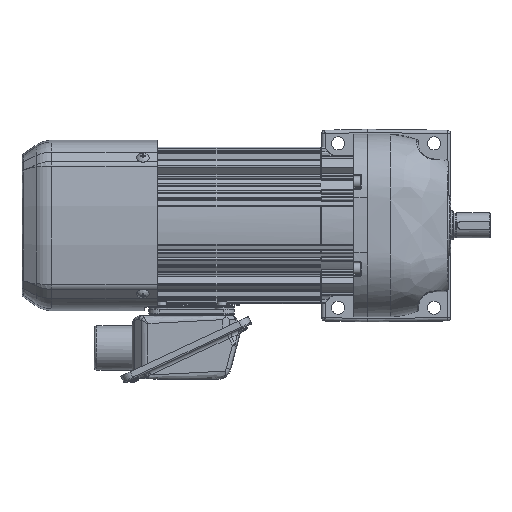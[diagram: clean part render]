
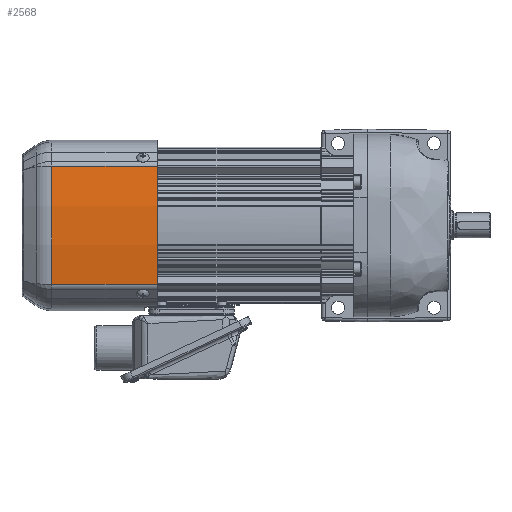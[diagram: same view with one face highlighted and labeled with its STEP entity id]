
A CAD part, top view. The second image highlights one B-rep face of the part: STEP entity #2568.
In plain terms, the highlighted cylindrical face has radius 300.6 mm (diameter 601.2 mm), a partial arc.
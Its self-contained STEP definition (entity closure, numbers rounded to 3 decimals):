
#2568 = ADVANCED_FACE( '', ( #6796 ), #6797, .T. );
#6796 = FACE_OUTER_BOUND( '', #14148, .T. );
#6797 = CYLINDRICAL_SURFACE( '', #14149, 300.6 );
#14148 = EDGE_LOOP( '', ( #28347, #28348, #28349, #28350 ) );
#14149 = AXIS2_PLACEMENT_3D( '', #28351, #28352, #28353 );
#28347 = ORIENTED_EDGE( '', *, *, #44129, .T. );
#28348 = ORIENTED_EDGE( '', *, *, #42854, .T. );
#28349 = ORIENTED_EDGE( '', *, *, #42937, .F. );
#28350 = ORIENTED_EDGE( '', *, *, #44130, .F. );
#28351 = CARTESIAN_POINT( '', ( -62.279, 47., -258.6 ) );
#28352 = DIRECTION( '', ( 1., 0., 0. ) );
#28353 = DIRECTION( '', ( 0., 0., -1. ) );
#42854 = EDGE_CURVE( '', #49584, #49589, #49591, .F. );
#42937 = EDGE_CURVE( '', #49735, #49589, #49736, .T. );
#44129 = EDGE_CURVE( '', #51778, #49584, #51779, .T. );
#44130 = EDGE_CURVE( '', #51778, #49735, #51780, .T. );
#49584 = VERTEX_POINT( '', #59527 );
#49589 = VERTEX_POINT( '', #59532 );
#49591 = CIRCLE( '', #59534, 300.6 );
#49735 = VERTEX_POINT( '', #59697 );
#49736 = LINE( '', #59698, #59699 );
#51778 = VERTEX_POINT( '', #63119 );
#51779 = LINE( '', #63120, #63121 );
#51780 = CIRCLE( '', #63122, 300.6 );
#59527 = CARTESIAN_POINT( '', ( -142.784, 91.935, 38.622 ) );
#59532 = CARTESIAN_POINT( '', ( -142.784, 2.065, 38.622 ) );
#59534 = AXIS2_PLACEMENT_3D( '', #75579, #75580, #75581 );
#59697 = CARTESIAN_POINT( '', ( -62.279, 2.065, 38.622 ) );
#59698 = CARTESIAN_POINT( '', ( -62.279, 2.065, 38.622 ) );
#59699 = VECTOR( '', #75733, 1000. );
#63119 = CARTESIAN_POINT( '', ( -62.279, 91.935, 38.622 ) );
#63120 = CARTESIAN_POINT( '', ( -62.279, 91.935, 38.622 ) );
#63121 = VECTOR( '', #77463, 1000. );
#63122 = AXIS2_PLACEMENT_3D( '', #77464, #77465, #77466 );
#75579 = CARTESIAN_POINT( '', ( -142.784, 47., -258.6 ) );
#75580 = DIRECTION( '', ( -1., 0., 0. ) );
#75581 = DIRECTION( '', ( 0., 0., -1. ) );
#75733 = DIRECTION( '', ( -1., 0., 0. ) );
#77463 = DIRECTION( '', ( -1., 0., 0. ) );
#77464 = CARTESIAN_POINT( '', ( -62.279, 47., -258.6 ) );
#77465 = DIRECTION( '', ( 1., 0., 0. ) );
#77466 = DIRECTION( '', ( 0., -1., 0. ) );
